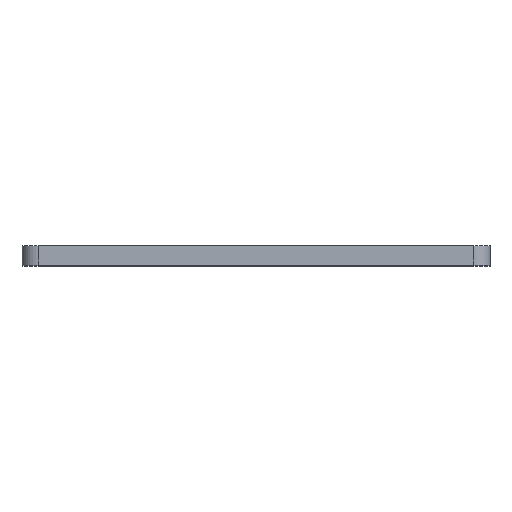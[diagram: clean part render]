
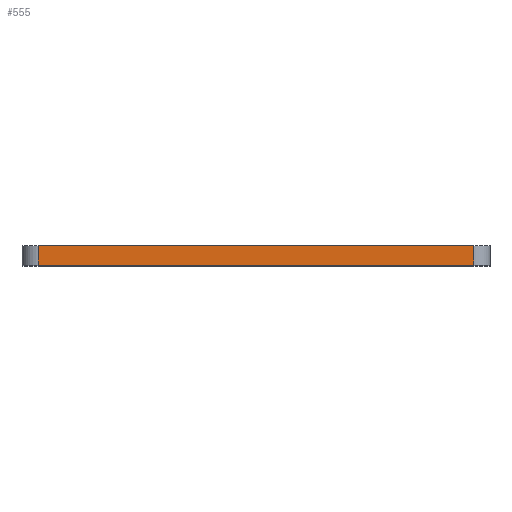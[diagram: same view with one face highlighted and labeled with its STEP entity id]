
A CAD part, top view. The second image highlights one B-rep face of the part: STEP entity #555.
In plain terms, the highlighted planar face has unit normal (0, 0, 1).
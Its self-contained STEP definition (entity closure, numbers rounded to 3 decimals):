
#3 = ORIENTED_EDGE ( 'NONE', *, *, #729, .F. ) ;
#24 = PLANE ( 'NONE',  #798 ) ;
#60 = ORIENTED_EDGE ( 'NONE', *, *, #816, .F. ) ;
#110 = VERTEX_POINT ( 'NONE', #726 ) ;
#193 = EDGE_LOOP ( 'NONE', ( #60, #3, #234, #496 ) ) ;
#207 = CARTESIAN_POINT ( 'NONE',  ( 44.39, 4., 123.976 ) ) ;
#234 = ORIENTED_EDGE ( 'NONE', *, *, #552, .T. ) ;
#253 = EDGE_CURVE ( 'NONE', #650, #110, #676, .T. ) ;
#256 = CARTESIAN_POINT ( 'NONE',  ( 44.39, 4., 123.976 ) ) ;
#284 = CARTESIAN_POINT ( 'NONE',  ( -44.878, 4., 123.976 ) ) ;
#302 = CARTESIAN_POINT ( 'NONE',  ( 44.39, 0., 123.976 ) ) ;
#308 = CARTESIAN_POINT ( 'NONE',  ( 44.39, 0., 123.976 ) ) ;
#316 = CARTESIAN_POINT ( 'NONE',  ( -44.878, 4., 123.976 ) ) ;
#320 = VECTOR ( 'NONE', #380, 1000. ) ;
#331 = DIRECTION ( 'NONE',  ( 0., -1., 0. ) ) ;
#361 = VECTOR ( 'NONE', #821, 1000. ) ;
#372 = LINE ( 'NONE', #775, #541 ) ;
#374 = VERTEX_POINT ( 'NONE', #308 ) ;
#380 = DIRECTION ( 'NONE',  ( -1., 0., 0. ) ) ;
#383 = VECTOR ( 'NONE', #331, 1000. ) ;
#496 = ORIENTED_EDGE ( 'NONE', *, *, #253, .T. ) ;
#530 = LINE ( 'NONE', #302, #320 ) ;
#532 = VERTEX_POINT ( 'NONE', #207 ) ;
#541 = VECTOR ( 'NONE', #772, 1000. ) ;
#552 = EDGE_CURVE ( 'NONE', #532, #650, #372, .T. ) ;
#555 = ADVANCED_FACE ( 'NONE', ( #742 ), #24, .T. ) ;
#589 = DIRECTION ( 'NONE',  ( 0., 0., 1. ) ) ;
#591 = CARTESIAN_POINT ( 'NONE',  ( 44.39, 4., 123.976 ) ) ;
#650 = VERTEX_POINT ( 'NONE', #284 ) ;
#676 = LINE ( 'NONE', #316, #361 ) ;
#726 = CARTESIAN_POINT ( 'NONE',  ( -44.878, 0., 123.976 ) ) ;
#729 = EDGE_CURVE ( 'NONE', #532, #374, #751, .T. ) ;
#742 = FACE_OUTER_BOUND ( 'NONE', #193, .T. ) ;
#751 = LINE ( 'NONE', #256, #383 ) ;
#772 = DIRECTION ( 'NONE',  ( -1., 0., 0. ) ) ;
#774 = DIRECTION ( 'NONE',  ( 1., 0., 0. ) ) ;
#775 = CARTESIAN_POINT ( 'NONE',  ( 44.39, 4., 123.976 ) ) ;
#798 = AXIS2_PLACEMENT_3D ( 'NONE', #591, #589, #774 ) ;
#816 = EDGE_CURVE ( 'NONE', #374, #110, #530, .T. ) ;
#821 = DIRECTION ( 'NONE',  ( 0., -1., 0. ) ) ;
